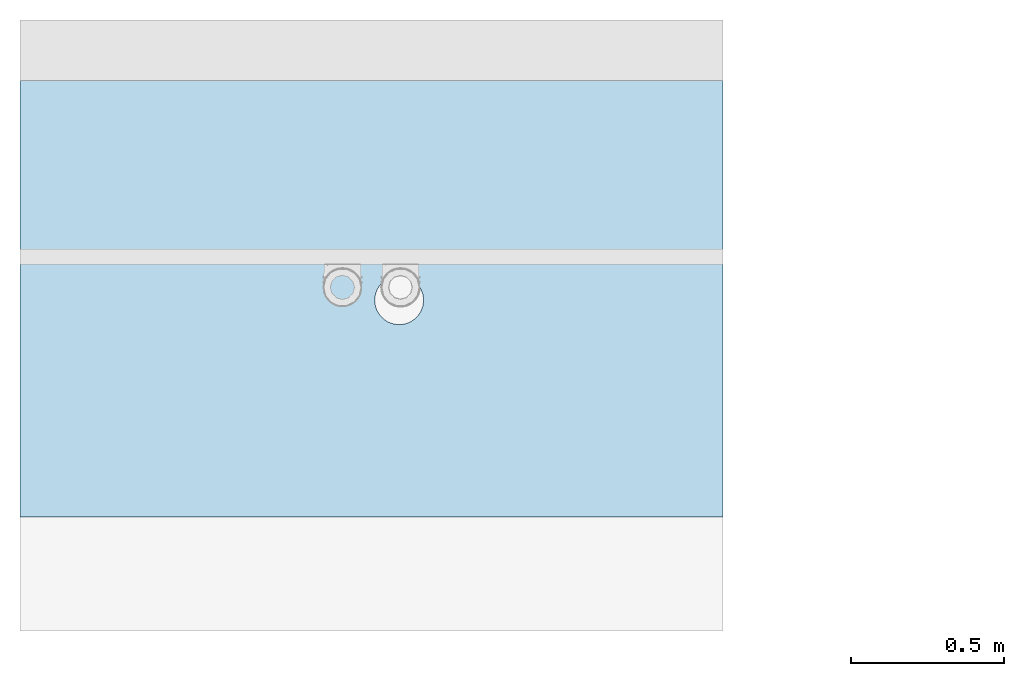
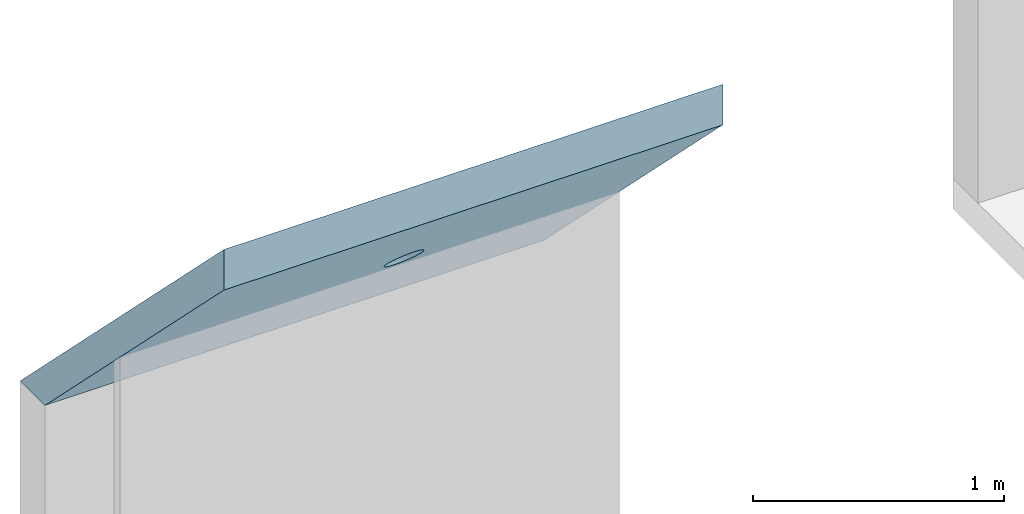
# One storey, part 2 of 3: 1 roof.
"""IFC4 building model written with IfcOpenShell, lengths in millimetres."""

from ifc_helpers import new_model, entity, si_unit, converted_unit, derived_unit, direction, frame, origin, place, context, subcontext, project, spatial, polygons, material, layer, layer_set, type_object, element, save


model = new_model("IFC4")

# Units and contexts
model_context = context("Model", 3, precision=0.01, world=origin(), true_north=direction((6.12303176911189e-17, 1.0)))
body_context = subcontext(model_context, "Body", "Model", "MODEL_VIEW")
ifc_project = project(units=[si_unit("LENGTHUNIT", "METRE", prefix="MILLI"), si_unit("AREAUNIT", "SQUARE_METRE"), si_unit("VOLUMEUNIT", "CUBIC_METRE"), converted_unit("PLANEANGLEUNIT", "DEGREE", entity("IfcRatioMeasure", 0.0174532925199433), si_unit("PLANEANGLEUNIT", "RADIAN"), dimensions=[0, 0, 0, 0, 0, 0, 0]), si_unit("MASSUNIT", "GRAM", prefix="KILO"), derived_unit("MASSDENSITYUNIT", [(si_unit("MASSUNIT", "GRAM", prefix="KILO"), 1), (si_unit("LENGTHUNIT", "METRE"), -3)]), si_unit("TIMEUNIT", "SECOND"), si_unit("FREQUENCYUNIT", "HERTZ"), si_unit("THERMODYNAMICTEMPERATUREUNIT", "DEGREE_CELSIUS"), derived_unit("THERMALTRANSMITTANCEUNIT", [(si_unit("MASSUNIT", "GRAM", prefix="KILO"), 1), (si_unit("THERMODYNAMICTEMPERATUREUNIT", "KELVIN"), -1), (si_unit("TIMEUNIT", "SECOND"), -3)]), derived_unit("VOLUMETRICFLOWRATEUNIT", [(si_unit("LENGTHUNIT", "METRE"), 3), (si_unit("TIMEUNIT", "SECOND"), -1)]), si_unit("ELECTRICCURRENTUNIT", "AMPERE"), si_unit("ELECTRICVOLTAGEUNIT", "VOLT"), si_unit("POWERUNIT", "WATT"), si_unit("FORCEUNIT", "NEWTON", prefix="KILO"), si_unit("ILLUMINANCEUNIT", "LUX"), si_unit("LUMINOUSFLUXUNIT", "LUMEN"), si_unit("LUMINOUSINTENSITYUNIT", "CANDELA"), derived_unit("USERDEFINED", [(si_unit("MASSUNIT", "GRAM", prefix="KILO"), -1), (si_unit("LENGTHUNIT", "METRE"), -2), (si_unit("TIMEUNIT", "SECOND"), 3), (si_unit("LUMINOUSFLUXUNIT", "LUMEN"), 1)]), derived_unit("LINEARVELOCITYUNIT", [(si_unit("LENGTHUNIT", "METRE"), 1), (si_unit("TIMEUNIT", "SECOND"), -1)]), si_unit("PRESSUREUNIT", "PASCAL"), derived_unit("USERDEFINED", [(si_unit("LENGTHUNIT", "METRE"), -2), (si_unit("MASSUNIT", "GRAM", prefix="KILO"), 1), (si_unit("TIMEUNIT", "SECOND"), -2)])], contexts=[model_context])

# Site, building, storey
site_placement = place(None, origin())
site = spatial("IfcSite", under=ifc_project, at=site_placement, Name="Default", CompositionType="ELEMENT")
building_placement = place(site_placement, origin())
building = spatial("IfcBuilding", under=site, at=building_placement, CompositionType="ELEMENT")
storey_placement = place(building_placement, frame((0.0, 0.0, 2313.90197154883)))
storey = spatial("IfcBuildingStorey", under=building, at=storey_placement, Name="Level 1y", CompositionType="ELEMENT", Elevation=2313.90197154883)

# Roof
ifc_material = material(Name="Default Roof", Category="Materials")
ifc_layer = layer(ifc_material, 140.0, Name="Default Roof", Category="Materials")
ifc_layer_set = layer_set([ifc_layer], Name="Basic Roof:Generic - 140")
roof_type = type_object("IfcRoofType", Name="Basic Roof:Generic - 140", PredefinedType="NOTDEFINED")
roof_placement = place(storey_placement, frame((-16184.8881114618, 1965.89791503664, 1025.26769015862)))
element("IfcRoof", 1, at=roof_placement, inside=storey, type_object=roof_type, material=ifc_layer_set, Name="Basic Roof:Generic - 140", ObjectType="Basic Roof:Generic - 140", PredefinedType="NOTDEFINED", context=body_context, shape_type="Tessellation", body=[
    polygons([(0.0, 2.70716782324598e-13, 1626.34559672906), (0.0, 1626.34559672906, 0.0), (0.0, 1428.35569799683, 0.0), (0.0, -2.70716782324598e-13, 1428.35569799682), (2300.0, 1626.34559672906, 0.0), (2300.0, -2.70716782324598e-13, 1626.34559672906), (2300.0, -2.70716782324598e-13, 1428.35569799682), (2300.0, 1428.35569799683, 0.0), (1320.67885674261, 709.345596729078, 916.999999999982), (1318.67308971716, 691.543922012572, 934.801674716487), (1312.75636617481, 674.634897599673, 951.710699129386), (1303.22537534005, 659.466412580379, 966.879184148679), (1290.55804089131, 646.799078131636, 979.546518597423), (1275.38955587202, 637.268087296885, 989.077509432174), (1258.48053145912, 631.351363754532, 994.994232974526), (1240.67885674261, 629.345596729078, 996.999999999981), (1222.87718202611, 631.351363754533, 994.994232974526), (1205.96815761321, 637.268087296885, 989.077509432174), (1190.79967259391, 646.799078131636, 979.546518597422), (1178.13233814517, 659.46641258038, 966.879184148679), (1168.60134731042, 674.634897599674, 951.710699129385), (1162.68462376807, 691.543922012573, 934.801674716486), (1160.67885674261, 709.345596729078, 916.999999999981), (1162.68462376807, 727.147271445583, 899.198325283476), (1168.60134731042, 744.056295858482, 882.289300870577), (1178.13233814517, 759.224780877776, 867.120815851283), (1190.79967259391, 771.892115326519, 854.45348140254), (1205.96815761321, 781.42310616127, 844.922490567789), (1222.87718202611, 787.339829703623, 839.005767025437), (1240.67885674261, 789.345596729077, 836.999999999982), (1258.48053145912, 787.339829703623, 839.005767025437), (1275.38955587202, 781.42310616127, 844.922490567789), (1290.55804089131, 771.892115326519, 854.45348140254), (1303.22537534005, 759.224780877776, 867.120815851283), (1312.75636617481, 744.056295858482, 882.289300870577), (1318.67308971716, 727.147271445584, 899.198325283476), (1160.67885674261, 709.345596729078, 719.010101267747), (1162.68462376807, 691.543922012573, 736.811775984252), (1168.60134731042, 674.634897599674, 753.720800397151), (1178.13233814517, 659.46641258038, 768.889285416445), (1190.79967259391, 646.799078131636, 781.556619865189), (1205.96815761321, 637.268087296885, 791.08761069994), (1222.87718202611, 631.351363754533, 797.004334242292), (1240.67885674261, 629.345596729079, 799.010101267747), (1258.48053145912, 631.351363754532, 797.004334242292), (1275.38955587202, 637.268087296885, 791.08761069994), (1290.55804089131, 646.799078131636, 781.556619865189), (1303.22537534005, 659.466412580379, 768.889285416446), (1312.75636617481, 674.634897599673, 753.720800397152), (1318.67308971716, 691.543922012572, 736.811775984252), (1320.67885674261, 709.345596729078, 719.010101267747), (1318.67308971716, 727.147271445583, 701.208426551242), (1312.75636617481, 744.056295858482, 684.299402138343), (1303.22537534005, 759.224780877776, 669.130917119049), (1290.55804089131, 771.892115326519, 656.463582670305), (1275.38955587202, 781.42310616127, 646.932591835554), (1258.48053145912, 787.339829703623, 641.015868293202), (1240.67885674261, 789.345596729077, 639.010101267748), (1222.87718202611, 787.339829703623, 641.015868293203), (1205.96815761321, 781.42310616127, 646.932591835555), (1190.79967259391, 771.892115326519, 656.463582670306), (1178.13233814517, 759.224780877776, 669.130917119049), (1168.60134731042, 744.056295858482, 684.299402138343), (1162.68462376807, 727.147271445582, 701.208426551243)], [[[4, 1, 2, 3]], [[8, 5, 6, 7]], [[1, 6, 5, 2], [22, 23, 24, 25, 26, 27, 28, 29, 30, 31, 32, 33, 34, 35, 36, 9, 10, 11, 12, 13, 14, 15, 16, 17, 18, 19, 20, 21]], [[3, 8, 7, 4], [63, 64, 37, 38, 39, 40, 41, 42, 43, 44, 45, 46, 47, 48, 49, 50, 51, 52, 53, 54, 55, 56, 57, 58, 59, 60, 61, 62]], [[1, 4, 7, 6]], [[2, 5, 8, 3]], [[22, 21, 39, 38]], [[23, 22, 38, 37]], [[20, 19, 41, 40]], [[18, 17, 43, 42]], [[19, 18, 42, 41]], [[21, 20, 40, 39]], [[17, 16, 44, 43]], [[13, 47, 46, 14]], [[14, 46, 45, 15]], [[9, 51, 50, 10]], [[11, 49, 48, 12]], [[49, 11, 10, 50]], [[12, 48, 47, 13]], [[16, 15, 45, 44]], [[52, 36, 35, 53]], [[53, 35, 34, 54]], [[31, 57, 56, 32]], [[56, 55, 33, 32]], [[54, 34, 33, 55]], [[31, 30, 58, 57]], [[51, 9, 36, 52]], [[60, 59, 29, 28]], [[60, 28, 27, 61]], [[63, 62, 26, 25]], [[25, 24, 64, 63]], [[61, 27, 26, 62]], [[37, 64, 24, 23]], [[59, 58, 30, 29]]], closed=True),
])

save(model, "model.ifc")
